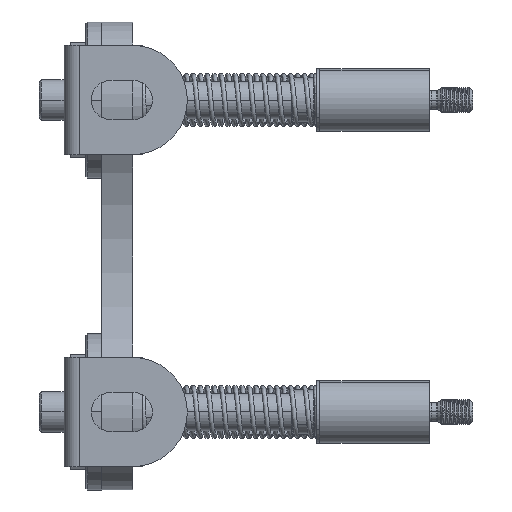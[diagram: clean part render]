
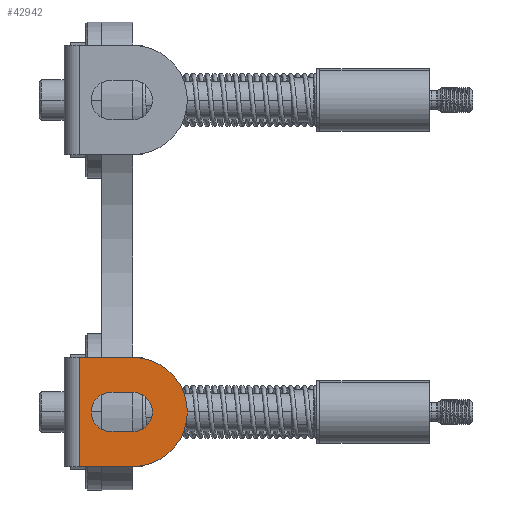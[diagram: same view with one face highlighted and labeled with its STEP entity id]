
A CAD part, left-side view. The second image highlights one B-rep face of the part: STEP entity #42942.
In plain terms, the highlighted planar face has unit normal (-1, 0, 0).
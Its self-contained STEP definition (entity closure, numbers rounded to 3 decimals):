
#1278 = EDGE_CURVE ( 'NONE', #2306, #48617, #46752, .T. ) ;
#1721 = EDGE_LOOP ( 'NONE', ( #46732, #18164, #36426, #6242, #35207 ) ) ;
#2306 = VERTEX_POINT ( 'NONE', #21331 ) ;
#3070 = DIRECTION ( 'NONE',  ( 0., -1., 0. ) ) ;
#3516 = VERTEX_POINT ( 'NONE', #19860 ) ;
#4332 = ORIENTED_EDGE ( 'NONE', *, *, #35829, .F. ) ;
#4640 = VERTEX_POINT ( 'NONE', #36929 ) ;
#5518 = CIRCLE ( 'NONE', #39706, 6.3 ) ;
#6242 = ORIENTED_EDGE ( 'NONE', *, *, #21395, .T. ) ;
#6987 = LINE ( 'NONE', #38849, #47429 ) ;
#7532 = EDGE_CURVE ( 'NONE', #51137, #9412, #39331, .T. ) ;
#7800 = ORIENTED_EDGE ( 'NONE', *, *, #40957, .F. ) ;
#8212 = CARTESIAN_POINT ( 'NONE',  ( -116.5, 7., -43.7 ) ) ;
#8675 = EDGE_LOOP ( 'NONE', ( #28534, #17002, #7800, #4332, #10825 ) ) ;
#8971 = CIRCLE ( 'NONE', #25638, 17.5 ) ;
#9412 = VERTEX_POINT ( 'NONE', #8212 ) ;
#10614 = CARTESIAN_POINT ( 'NONE',  ( -116.5, 17., -67.5 ) ) ;
#10825 = ORIENTED_EDGE ( 'NONE', *, *, #1278, .F. ) ;
#11382 = DIRECTION ( 'NONE',  ( 0., 1., 0. ) ) ;
#12442 = FACE_BOUND ( 'NONE', #8675, .T. ) ;
#12555 = CARTESIAN_POINT ( 'NONE',  ( -116.5, 0., -50. ) ) ;
#12930 = VERTEX_POINT ( 'NONE', #44783 ) ;
#14008 = DIRECTION ( 'NONE',  ( 0., 1., 0. ) ) ;
#15550 = CARTESIAN_POINT ( 'NONE',  ( -116.5, 0., -50. ) ) ;
#16546 = VECTOR ( 'NONE', #38063, 1000. ) ;
#16966 = VERTEX_POINT ( 'NONE', #28751 ) ;
#17002 = ORIENTED_EDGE ( 'NONE', *, *, #7532, .F. ) ;
#18164 = ORIENTED_EDGE ( 'NONE', *, *, #41892, .T. ) ;
#18460 = EDGE_CURVE ( 'NONE', #9412, #2306, #47884, .T. ) ;
#18612 = CARTESIAN_POINT ( 'NONE',  ( -116.5, 0., -43.7 ) ) ;
#19860 = CARTESIAN_POINT ( 'NONE',  ( -116.5, 0., -32.5 ) ) ;
#20017 = LINE ( 'NONE', #20267, #33059 ) ;
#20267 = CARTESIAN_POINT ( 'NONE',  ( -116.5, 17., -50. ) ) ;
#20802 = PLANE ( 'NONE',  #25614 ) ;
#21331 = CARTESIAN_POINT ( 'NONE',  ( -116.5, 13.3, -50. ) ) ;
#21395 = EDGE_CURVE ( 'NONE', #41833, #4640, #28989, .T. ) ;
#21895 = CARTESIAN_POINT ( 'NONE',  ( -116.5, 7., -56.3 ) ) ;
#24705 = DIRECTION ( 'NONE',  ( 0., 0., -1. ) ) ;
#24900 = DIRECTION ( 'NONE',  ( 0., -1., 0. ) ) ;
#25614 = AXIS2_PLACEMENT_3D ( 'NONE', #36710, #28363, #28869 ) ;
#25638 = AXIS2_PLACEMENT_3D ( 'NONE', #15550, #34884, #11382 ) ;
#26025 = CARTESIAN_POINT ( 'NONE',  ( -116.5, 7., -50. ) ) ;
#26789 = CARTESIAN_POINT ( 'NONE',  ( -116.5, 7., -50. ) ) ;
#28079 = CARTESIAN_POINT ( 'NONE',  ( -116.5, 7., -43.7 ) ) ;
#28221 = DIRECTION ( 'NONE',  ( 0., 1., 0. ) ) ;
#28363 = DIRECTION ( 'NONE',  ( -1., 0., 0. ) ) ;
#28534 = ORIENTED_EDGE ( 'NONE', *, *, #18460, .F. ) ;
#28751 = CARTESIAN_POINT ( 'NONE',  ( -116.5, 0., -56.3 ) ) ;
#28869 = DIRECTION ( 'NONE',  ( 0., 1., 0. ) ) ;
#28989 = CIRCLE ( 'NONE', #37343, 17.5 ) ;
#29305 = LINE ( 'NONE', #45247, #38848 ) ;
#33059 = VECTOR ( 'NONE', #24705, 1000. ) ;
#33356 = DIRECTION ( 'NONE',  ( -1., 0., 0. ) ) ;
#34884 = DIRECTION ( 'NONE',  ( -1., 0., 0. ) ) ;
#35207 = ORIENTED_EDGE ( 'NONE', *, *, #50883, .T. ) ;
#35463 = EDGE_CURVE ( 'NONE', #3516, #12930, #50359, .T. ) ;
#35829 = EDGE_CURVE ( 'NONE', #48617, #16966, #6987, .T. ) ;
#36344 = DIRECTION ( 'NONE',  ( 0., 1., 0. ) ) ;
#36426 = ORIENTED_EDGE ( 'NONE', *, *, #40055, .T. ) ;
#36565 = DIRECTION ( 'NONE',  ( -1., 0., 0. ) ) ;
#36710 = CARTESIAN_POINT ( 'NONE',  ( -116.5, 0., -50. ) ) ;
#36929 = CARTESIAN_POINT ( 'NONE',  ( -116.5, -17.5, -50. ) ) ;
#37343 = AXIS2_PLACEMENT_3D ( 'NONE', #41198, #33356, #45120 ) ;
#37558 = CARTESIAN_POINT ( 'NONE',  ( -116.5, 20., -32.5 ) ) ;
#38063 = DIRECTION ( 'NONE',  ( 0., 1., 0. ) ) ;
#38703 = AXIS2_PLACEMENT_3D ( 'NONE', #26789, #39764, #36344 ) ;
#38848 = VECTOR ( 'NONE', #24900, 1000. ) ;
#38849 = CARTESIAN_POINT ( 'NONE',  ( -116.5, 7., -56.3 ) ) ;
#39331 = LINE ( 'NONE', #28079, #48600 ) ;
#39706 = AXIS2_PLACEMENT_3D ( 'NONE', #12555, #36565, #28221 ) ;
#39764 = DIRECTION ( 'NONE',  ( -1., 0., 0. ) ) ;
#40055 = EDGE_CURVE ( 'NONE', #44727, #41833, #29305, .T. ) ;
#40632 = FACE_OUTER_BOUND ( 'NONE', #1721, .T. ) ;
#40957 = EDGE_CURVE ( 'NONE', #16966, #51137, #5518, .T. ) ;
#41198 = CARTESIAN_POINT ( 'NONE',  ( -116.5, 0., -50. ) ) ;
#41833 = VERTEX_POINT ( 'NONE', #50335 ) ;
#41892 = EDGE_CURVE ( 'NONE', #12930, #44727, #20017, .T. ) ;
#42206 = DIRECTION ( 'NONE',  ( -1., 0., 0. ) ) ;
#42579 = AXIS2_PLACEMENT_3D ( 'NONE', #26025, #42206, #14008 ) ;
#42942 = ADVANCED_FACE ( 'NONE', ( #12442, #40632 ), #20802, .T. ) ;
#44727 = VERTEX_POINT ( 'NONE', #10614 ) ;
#44783 = CARTESIAN_POINT ( 'NONE',  ( -116.5, 17., -32.5 ) ) ;
#45120 = DIRECTION ( 'NONE',  ( 0., 1., 0. ) ) ;
#45247 = CARTESIAN_POINT ( 'NONE',  ( -116.5, 0., -67.5 ) ) ;
#46732 = ORIENTED_EDGE ( 'NONE', *, *, #35463, .T. ) ;
#46752 = CIRCLE ( 'NONE', #42579, 6.3 ) ;
#47429 = VECTOR ( 'NONE', #3070, 1000. ) ;
#47884 = CIRCLE ( 'NONE', #38703, 6.3 ) ;
#47943 = DIRECTION ( 'NONE',  ( 0., 1., 0. ) ) ;
#48600 = VECTOR ( 'NONE', #47943, 1000. ) ;
#48617 = VERTEX_POINT ( 'NONE', #21895 ) ;
#50335 = CARTESIAN_POINT ( 'NONE',  ( -116.5, 0., -67.5 ) ) ;
#50359 = LINE ( 'NONE', #37558, #16546 ) ;
#50883 = EDGE_CURVE ( 'NONE', #4640, #3516, #8971, .T. ) ;
#51137 = VERTEX_POINT ( 'NONE', #18612 ) ;
